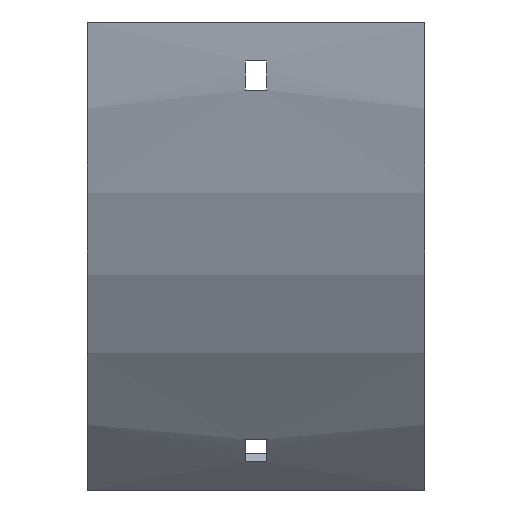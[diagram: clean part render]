
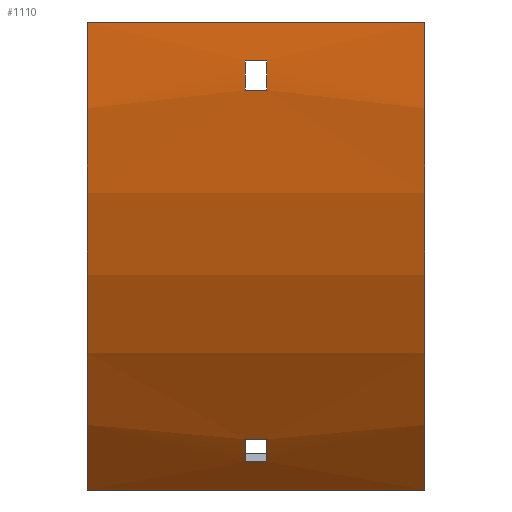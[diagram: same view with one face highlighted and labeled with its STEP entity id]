
A CAD part, front view. The second image highlights one B-rep face of the part: STEP entity #1110.
In plain terms, the highlighted cylindrical face has radius 204 mm (diameter 408 mm), a partial arc.
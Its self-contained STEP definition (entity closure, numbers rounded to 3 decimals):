
#11 = VECTOR ( 'NONE', #652, 1000. ) ;
#12 = VERTEX_POINT ( 'NONE', #1372 ) ;
#16 = EDGE_CURVE ( 'NONE', #1219, #1111, #573, .T. ) ;
#31 = ORIENTED_EDGE ( 'NONE', *, *, #932, .F. ) ;
#40 = DIRECTION ( 'NONE',  ( -1., 0., 0. ) ) ;
#50 = DIRECTION ( 'NONE',  ( 0., 0., 1. ) ) ;
#67 = VERTEX_POINT ( 'NONE', #1423 ) ;
#79 = CARTESIAN_POINT ( 'NONE',  ( 52., -104., 0. ) ) ;
#96 = EDGE_CURVE ( 'NONE', #67, #829, #1345, .T. ) ;
#144 = ORIENTED_EDGE ( 'NONE', *, *, #16, .T. ) ;
#145 = EDGE_CURVE ( 'NONE', #818, #12, #877, .T. ) ;
#173 = CARTESIAN_POINT ( 'NONE',  ( -3.25, -102.916, -21. ) ) ;
#194 = CARTESIAN_POINT ( 'NONE',  ( -3.25, -103.647, -12. ) ) ;
#211 = VECTOR ( 'NONE', #368, 1000. ) ;
#218 = EDGE_CURVE ( 'NONE', #435, #1157, #1484, .T. ) ;
#251 = DIRECTION ( 'NONE',  ( -1., 0., 0. ) ) ;
#256 = ORIENTED_EDGE ( 'NONE', *, *, #1569, .T. ) ;
#297 = FACE_BOUND ( 'NONE', #1468, .T. ) ;
#300 = CARTESIAN_POINT ( 'NONE',  ( -3.25, 100., 0. ) ) ;
#337 = ORIENTED_EDGE ( 'NONE', *, *, #948, .F. ) ;
#344 = LINE ( 'NONE', #1131, #1582 ) ;
#351 = LINE ( 'NONE', #744, #664 ) ;
#368 = DIRECTION ( 'NONE',  ( 1., 0., 0. ) ) ;
#384 = DIRECTION ( 'NONE',  ( 0., 0., -1. ) ) ;
#400 = AXIS2_PLACEMENT_3D ( 'NONE', #1093, #1486, #947 ) ;
#403 = DIRECTION ( 'NONE',  ( -1., 0., 0. ) ) ;
#404 = ORIENTED_EDGE ( 'NONE', *, *, #218, .F. ) ;
#435 = VERTEX_POINT ( 'NONE', #1099 ) ;
#438 = CARTESIAN_POINT ( 'NONE',  ( -52., -44.25, -144.25 ) ) ;
#461 = DIRECTION ( 'NONE',  ( 1., 0., 0. ) ) ;
#474 = LINE ( 'NONE', #1003, #11 ) ;
#478 = AXIS2_PLACEMENT_3D ( 'NONE', #1488, #40, #50 ) ;
#483 = VERTEX_POINT ( 'NONE', #995 ) ;
#539 = DIRECTION ( 'NONE',  ( 1., 0., 0. ) ) ;
#546 = EDGE_CURVE ( 'NONE', #818, #1219, #1421, .T. ) ;
#558 = CARTESIAN_POINT ( 'NONE',  ( 3.25, -102.916, -21. ) ) ;
#573 = CIRCLE ( 'NONE', #1539, 204. ) ;
#584 = ORIENTED_EDGE ( 'NONE', *, *, #96, .T. ) ;
#588 = EDGE_CURVE ( 'NONE', #1157, #1181, #1289, .T. ) ;
#600 = CARTESIAN_POINT ( 'NONE',  ( 52., -103.647, -12. ) ) ;
#602 = AXIS2_PLACEMENT_3D ( 'NONE', #782, #626, #1549 ) ;
#626 = DIRECTION ( 'NONE',  ( 1., 0., 0. ) ) ;
#627 = LINE ( 'NONE', #600, #842 ) ;
#639 = CARTESIAN_POINT ( 'NONE',  ( 52., -52.485, -135.515 ) ) ;
#652 = DIRECTION ( 'NONE',  ( -1., 0., 0. ) ) ;
#664 = VECTOR ( 'NONE', #795, 1000. ) ;
#670 = ORIENTED_EDGE ( 'NONE', *, *, #1499, .T. ) ;
#682 = DIRECTION ( 'NONE',  ( 0., 0., -1. ) ) ;
#711 = ORIENTED_EDGE ( 'NONE', *, *, #546, .T. ) ;
#743 = ORIENTED_EDGE ( 'NONE', *, *, #145, .F. ) ;
#744 = CARTESIAN_POINT ( 'NONE',  ( 52., -44.25, -144.25 ) ) ;
#746 = AXIS2_PLACEMENT_3D ( 'NONE', #300, #539, #682 ) ;
#778 = VERTEX_POINT ( 'NONE', #194 ) ;
#782 = CARTESIAN_POINT ( 'NONE',  ( 3.25, 100., 0. ) ) ;
#787 = AXIS2_PLACEMENT_3D ( 'NONE', #1026, #403, #1185 ) ;
#795 = DIRECTION ( 'NONE',  ( -1., 0., 0. ) ) ;
#814 = VECTOR ( 'NONE', #251, 1000. ) ;
#818 = VERTEX_POINT ( 'NONE', #79 ) ;
#821 = FACE_BOUND ( 'NONE', #1424, .T. ) ;
#829 = VERTEX_POINT ( 'NONE', #558 ) ;
#842 = VECTOR ( 'NONE', #461, 1000. ) ;
#877 = CIRCLE ( 'NONE', #1446, 204. ) ;
#882 = DIRECTION ( 'NONE',  ( 1., 0., 0. ) ) ;
#889 = CARTESIAN_POINT ( 'NONE',  ( 52., -104., 0. ) ) ;
#932 = EDGE_CURVE ( 'NONE', #483, #435, #474, .T. ) ;
#933 = ORIENTED_EDGE ( 'NONE', *, *, #588, .F. ) ;
#947 = DIRECTION ( 'NONE',  ( 0., 0., 1. ) ) ;
#948 = EDGE_CURVE ( 'NONE', #12, #1111, #351, .T. ) ;
#966 = FACE_OUTER_BOUND ( 'NONE', #1413, .T. ) ;
#995 = CARTESIAN_POINT ( 'NONE',  ( 3.25, -58.333, -128.634 ) ) ;
#1000 = CARTESIAN_POINT ( 'NONE',  ( 3.25, -52.485, -135.515 ) ) ;
#1003 = CARTESIAN_POINT ( 'NONE',  ( 52., -58.333, -128.634 ) ) ;
#1021 = CARTESIAN_POINT ( 'NONE',  ( -3.25, -52.485, -135.515 ) ) ;
#1026 = CARTESIAN_POINT ( 'NONE',  ( 3.25, 100., 0. ) ) ;
#1036 = ORIENTED_EDGE ( 'NONE', *, *, #1675, .F. ) ;
#1093 = CARTESIAN_POINT ( 'NONE',  ( -3.25, 100., 0. ) ) ;
#1099 = CARTESIAN_POINT ( 'NONE',  ( -3.25, -58.333, -128.634 ) ) ;
#1110 = ADVANCED_FACE ( 'NONE', ( #966, #297, #821 ), #1344, .T. ) ;
#1111 = VERTEX_POINT ( 'NONE', #438 ) ;
#1131 = CARTESIAN_POINT ( 'NONE',  ( 52., -102.916, -21. ) ) ;
#1133 = CARTESIAN_POINT ( 'NONE',  ( -52., -104., 0. ) ) ;
#1146 = CIRCLE ( 'NONE', #400, 204. ) ;
#1147 = DIRECTION ( 'NONE',  ( 1., 0., 0. ) ) ;
#1157 = VERTEX_POINT ( 'NONE', #1021 ) ;
#1176 = CARTESIAN_POINT ( 'NONE',  ( 52., 100., 0. ) ) ;
#1181 = VERTEX_POINT ( 'NONE', #1000 ) ;
#1185 = DIRECTION ( 'NONE',  ( 0., 0., 1. ) ) ;
#1219 = VERTEX_POINT ( 'NONE', #1133 ) ;
#1289 = LINE ( 'NONE', #639, #211 ) ;
#1344 = CYLINDRICAL_SURFACE ( 'NONE', #478, 204. ) ;
#1345 = CIRCLE ( 'NONE', #602, 204. ) ;
#1365 = DIRECTION ( 'NONE',  ( 0., 0., -1. ) ) ;
#1372 = CARTESIAN_POINT ( 'NONE',  ( 52., -44.25, -144.25 ) ) ;
#1413 = EDGE_LOOP ( 'NONE', ( #144, #337, #743, #711 ) ) ;
#1421 = LINE ( 'NONE', #889, #814 ) ;
#1423 = CARTESIAN_POINT ( 'NONE',  ( 3.25, -103.647, -12. ) ) ;
#1424 = EDGE_LOOP ( 'NONE', ( #404, #31, #1036, #933 ) ) ;
#1438 = CIRCLE ( 'NONE', #787, 204. ) ;
#1446 = AXIS2_PLACEMENT_3D ( 'NONE', #1176, #1147, #384 ) ;
#1468 = EDGE_LOOP ( 'NONE', ( #1536, #670, #256, #584 ) ) ;
#1476 = VERTEX_POINT ( 'NONE', #173 ) ;
#1484 = CIRCLE ( 'NONE', #746, 204. ) ;
#1486 = DIRECTION ( 'NONE',  ( -1., 0., 0. ) ) ;
#1488 = CARTESIAN_POINT ( 'NONE',  ( 52., 100., 0. ) ) ;
#1493 = CARTESIAN_POINT ( 'NONE',  ( -52., 100., 0. ) ) ;
#1499 = EDGE_CURVE ( 'NONE', #1476, #778, #1146, .T. ) ;
#1536 = ORIENTED_EDGE ( 'NONE', *, *, #1588, .T. ) ;
#1539 = AXIS2_PLACEMENT_3D ( 'NONE', #1493, #882, #1365 ) ;
#1549 = DIRECTION ( 'NONE',  ( 0., 0., -1. ) ) ;
#1569 = EDGE_CURVE ( 'NONE', #778, #67, #627, .T. ) ;
#1582 = VECTOR ( 'NONE', #1652, 1000. ) ;
#1588 = EDGE_CURVE ( 'NONE', #829, #1476, #344, .T. ) ;
#1652 = DIRECTION ( 'NONE',  ( -1., 0., 0. ) ) ;
#1675 = EDGE_CURVE ( 'NONE', #1181, #483, #1438, .T. ) ;
